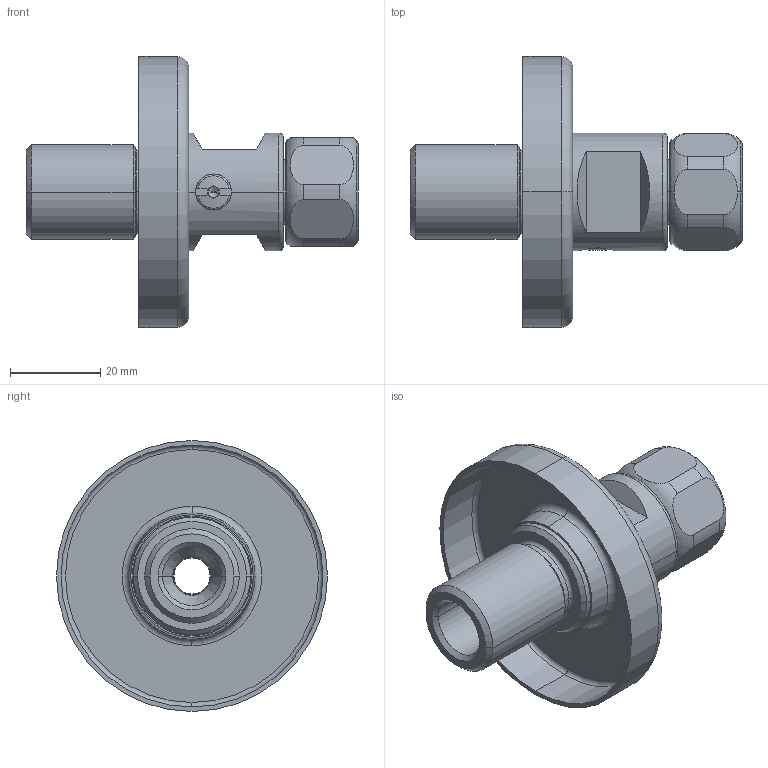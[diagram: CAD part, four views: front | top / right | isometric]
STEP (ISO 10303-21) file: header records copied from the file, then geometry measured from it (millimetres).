
FILE_DESCRIPTION((''),'2;1');
FILE_NAME('538343_ASM','2025-12-01T11:31:56',('WB441'),(''),'CREO PARAMETRIC BY PTC INC, 2024133','CREO PARAMETRIC BY PTC INC, 2024133','');
FILE_SCHEMA(('CONFIG_CONTROL_DESIGN'));
Length unit declared in the file: millimetre
Products named in the file (10): 613636; 606155; 600343; 607557; 607558; 600341; 600270; 600271; 612818; 538343_ASM
Assembly tree (9 placements, depth 2):
  538343_ASM
    613636
    606155
    600343
    607557
    607558
    600341
    600270
    600271
    612818
Bounding box: 73.5 x 60 x 60 mm (x, y, z)
Volume: 27615.3 mm3; surface area: 26467 mm2
Topology: 9 solids, 15 shells, 246 faces, 564 edges, 345 vertices
Faces by surface type: cylinder 81, plane 63, torus 58, cone 38, sphere 6
Entity records: 7687 total; most frequent: CARTESIAN_POINT 1677, DIRECTION 1405, ORIENTED_EDGE 1088, AXIS2_PLACEMENT_3D 620, EDGE_CURVE 560, CIRCLE 347, VERTEX_POINT 345, EDGE_LOOP 277
